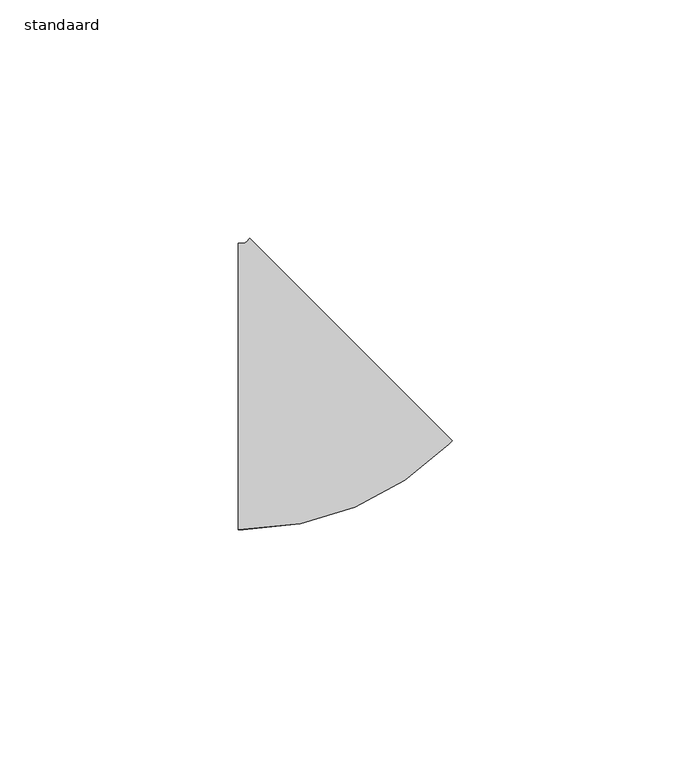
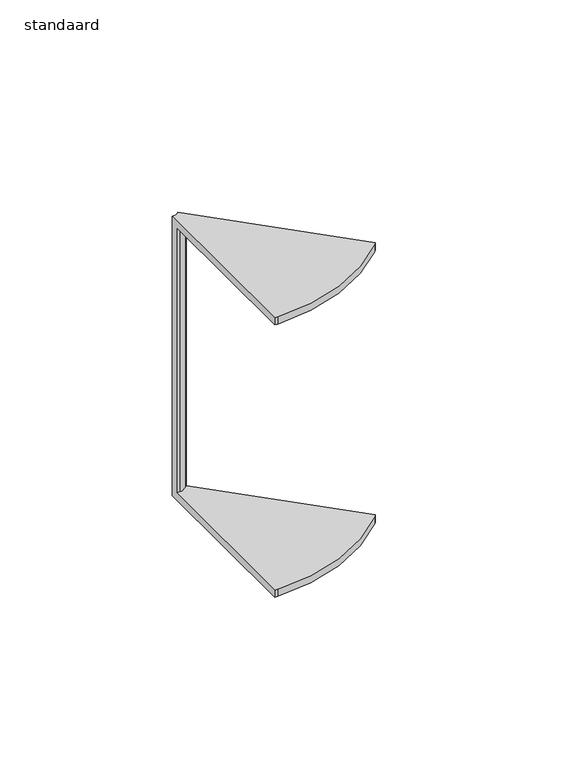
"""IFC4 building model written with IfcOpenShell, lengths in millimetres: cable carrier fitting geometry, AI_Raccord cdc_Coude desencdant : standaard."""

from ifc_helpers import new_model, si_unit, frame, origin, place, context, project, spatial, polyline, circle_curve, source, transform, mapped, element, save
from ifc_brep_helpers import plane_surface, cylinder_surface, revolved_surface, advanced_brep


def standaard_2330e57b(model_context):
    return source(origin(), model_context, "Body", "AdvancedBrep", [
        advanced_brep(
        [(-13.8406204, -30.0, 50.0), (-13.8406204, 30.0, 50.0), (-13.8406204, 30.0, -50.0), (-13.8406204, -30.0, -50.0), (-13.8406204, -30.0, -47.46), (-13.8406204, 27.46, -47.46), (-13.8406204, 27.46, 47.46), (-13.8406204, -30.0, 47.46), (31.0, -11.4264069, 50.0), (31.0, -11.4264069, 47.46), (-9.6303557, 29.2039488, 47.46), (-9.6303557, 29.2039488, -47.46), (31.0, -11.4264069, -47.46), (31.0, -11.4264069, -50.0), (-11.4264069, 31.0, -50.0), (-11.4264069, 31.0, 50.0), (-12.8406204, -30.0, 50.0), (30.2928932, -12.1335137, 50.0), (-12.1335137, 30.2928932, 50.0), (-12.8406204, 30.0, 50.0), (-12.8406204, 30.0, -50.0), (-12.1335137, 30.2928932, -50.0), (30.2928932, -12.1335137, -50.0), (-12.8406204, -30.0, -50.0), (-12.8406204, -30.0, -47.46), (30.2928932, -12.1335137, -47.46), (-10.3374624, 28.496842, -47.46), (-12.8406204, 27.46, -47.46), (-12.8406204, 27.46, 47.46), (-10.3374624, 28.496842, 47.46), (30.2928932, -12.1335137, 47.46), (-12.8406204, -30.0, 47.46)],
        [
            (0, 1),
            (1, 2),
            (2, 3),
            (3, 4),
            (4, 5),
            (5, 6),
            (6, 7),
            (7, 0),
            (8, 9),
            (9, 10),
            (10, 11),
            (11, 12),
            (12, 13),
            (13, 14),
            (14, 15),
            (15, 8),
            (0, 16),
            (16, 17, circle_curve(frame((-12.8406204, 31.0, 50.0), z_axis=(0.0, 0.0, 1.0), x_axis=(0.0, -1.0, 0.0)), 61.0)),
            (17, 8),
            (15, 18),
            (18, 19, circle_curve(frame((-12.8406204, 31.0, 50.0), z_axis=(0.0, 0.0, -1.0), x_axis=(0.0, -1.0, 0.0)), 1.0)),
            (19, 1),
            (19, 20),
            (20, 2),
            (20, 21, circle_curve(frame((-12.8406204, 31.0, -50.0), z_axis=(0.0, 0.0, 1.0), x_axis=(0.0, -1.0, 0.0)), 1.0)),
            (21, 14),
            (13, 22),
            (22, 23, circle_curve(frame((-12.8406204, 31.0, -50.0), z_axis=(0.0, 0.0, -1.0), x_axis=(0.0, -1.0, 0.0)), 61.0)),
            (23, 3),
            (23, 24),
            (24, 4),
            (24, 25, circle_curve(frame((-12.8406204, 31.0, -47.46), z_axis=(0.0, 0.0, 1.0), x_axis=(0.0, -1.0, 0.0)), 61.0)),
            (25, 12),
            (11, 26),
            (26, 27, circle_curve(frame((-12.8406204, 31.0, -47.46), z_axis=(0.0, 0.0, -1.0), x_axis=(0.0, -1.0, 0.0)), 3.54)),
            (27, 5),
            (27, 28),
            (28, 6),
            (28, 29, circle_curve(frame((-12.8406204, 31.0, 47.46), z_axis=(0.0, 0.0, 1.0), x_axis=(0.0, -1.0, 0.0)), 3.54)),
            (29, 10),
            (9, 30),
            (30, 31, circle_curve(frame((-12.8406204, 31.0, 47.46), z_axis=(0.0, 0.0, -1.0), x_axis=(0.0, -1.0, 0.0)), 61.0)),
            (31, 7),
            (31, 16),
            (18, 21),
            (22, 25),
            (26, 29),
            (30, 17),
        ],
        [
            plane_surface(frame((-13.8406204, 0.0, 0.0), z_axis=(-1.0, -4.915201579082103e-12, 0.0), x_axis=(0.0, 0.0, 1.0))),
            plane_surface(frame((9.7867966, 9.7867966, 0.0), z_axis=(0.7071067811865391, 0.707106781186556, 0.0), x_axis=(0.0, 0.0, 1.0))),
            plane_surface(frame((-13.8406204, -30.0, 50.0), z_axis=(0.0, 0.0, 1.0), x_axis=(1.0, 4.923661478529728e-12, 0.0))),
            plane_surface(frame((-13.8406204, 30.0, 50.0), z_axis=(-4.915201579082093e-12, 1.0, 0.0), x_axis=(1.0, 4.915201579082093e-12, 0.0))),
            plane_surface(frame((-13.8406204, 30.0, -50.0), z_axis=(0.0, 0.0, -1.0), x_axis=(1.0, 4.915201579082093e-12, 0.0))),
            plane_surface(frame((-13.8406204, -30.0, -50.0), z_axis=(4.923661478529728e-12, -1.0, 0.0), x_axis=(1.0, 4.923661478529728e-12, 0.0))),
            plane_surface(frame((-13.8406204, -30.0, -47.46), z_axis=(0.0, 0.0, 1.0), x_axis=(1.0, 4.923661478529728e-12, 0.0))),
            plane_surface(frame((-13.8406204, 27.46, -47.46), z_axis=(4.915201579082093e-12, -1.0, 0.0), x_axis=(1.0, 4.915201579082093e-12, 0.0))),
            plane_surface(frame((-13.8406204, 27.46, 47.46), z_axis=(0.0, 0.0, -1.0), x_axis=(1.0, 4.915201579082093e-12, 0.0))),
            plane_surface(frame((-13.8406204, -30.0, 47.46), z_axis=(4.923661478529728e-12, -1.0, 0.0), x_axis=(1.0, 4.923661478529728e-12, 0.0))),
            revolved_surface(polyline([(-12.8406204, 30.0, 50.0), (-12.8406204, 30.0, -50.0)]), (-12.8406204, 31.0, 0.0), (0.0, 0.0, 1.0)),
            cylinder_surface(frame((-12.8406204, 31.0, 0.0), z_axis=(0.0, 0.0, 1.0), x_axis=(0.0, -1.0, 0.0)), 61.0),
            cylinder_surface(frame((-12.8406204, 31.0, 0.0), z_axis=(0.0, 0.0, 1.0), x_axis=(0.0, -1.0, 0.0)), 3.54),
            plane_surface(frame((-12.1335137, 30.2928932, 50.0), z_axis=(-0.7071067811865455, 0.7071067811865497, 0.0), x_axis=(0.7071067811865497, 0.7071067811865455, 0.0))),
            plane_surface(frame((30.2928932, -12.1335137, -50.0), z_axis=(0.7071067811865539, -0.7071067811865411, 0.0), x_axis=(0.7071067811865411, 0.7071067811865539, 0.0))),
            plane_surface(frame((-10.3374624, 28.496842, -47.46), z_axis=(0.7071067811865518, -0.7071067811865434, 0.0), x_axis=(0.7071067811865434, 0.7071067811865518, 0.0))),
            plane_surface(frame((30.2928932, -12.1335137, 47.46), z_axis=(0.7071067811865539, -0.7071067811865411, 0.0), x_axis=(0.7071067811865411, 0.7071067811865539, 0.0))),
        ],
        [
            (0, [[1, 2, 3, 4, 5, 6, 7, 8]]),
            (1, [[9, 10, 11, 12, 13, 14, 15, 16]]),
            (2, [[-1, 17, 18, 19, -16, 20, 21, 22]]),
            (3, [[-2, -22, 23, 24]]),
            (4, [[-3, -24, 25, 26, -14, 27, 28, 29]]),
            (5, [[-4, -29, 30, 31]]),
            (6, [[-5, -31, 32, 33, -12, 34, 35, 36]]),
            (7, [[-6, -36, 37, 38]]),
            (8, [[-7, -38, 39, 40, -10, 41, 42, 43]]),
            (9, [[-8, -43, 44, -17]]),
            (10, [[-25, -23, -21, 45]]),
            (11, [[-32, -30, -28, 46]]),
            (12, [[-39, -37, -35, 47]]),
            (11, [[-18, -44, -42, 48]]),
            (13, [[-45, -20, -15, -26]]),
            (14, [[-46, -27, -13, -33]]),
            (15, [[-47, -34, -11, -40]]),
            (16, [[-48, -41, -9, -19]]),
        ],
    ),
    ])


if __name__ == "__main__":
    model = new_model("IFC4")
    model_context = context("Model", 3, world=origin())
    ifc_project = project(units=[si_unit("LENGTHUNIT", "METRE", prefix="MILLI")], contexts=[model_context])
    site = spatial("IfcSite", under=ifc_project)
    building = spatial("IfcBuilding", under=site)
    placement = place(None, origin())
    standaard_shape = standaard_2330e57b(model_context)
    element("IfcCableCarrierFitting", 1, ObjectType="AI_Raccord cdc_Coude desencdant : standaard", at=placement, inside=building, context=model_context, shape_type="MappedRepresentation", body=[
        mapped(standaard_shape, transform((0.0, 0.0, 0.0), x_axis=(1.0, 0.0, 0.0), y_axis=(0.0, 1.0, 0.0), z_axis=(0.0, 0.0, 1.0))),
    ])
    save(model, "model.ifc")
